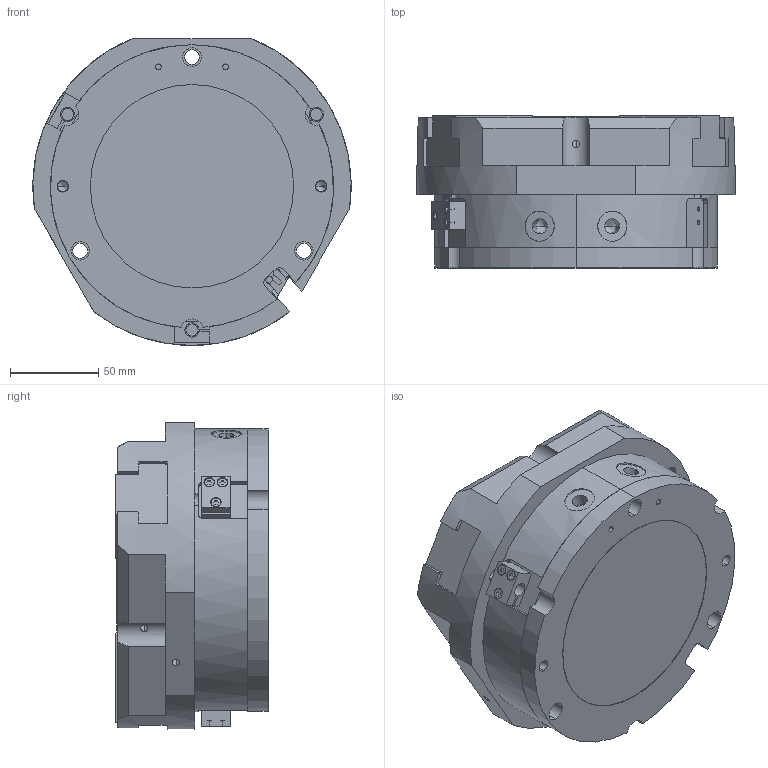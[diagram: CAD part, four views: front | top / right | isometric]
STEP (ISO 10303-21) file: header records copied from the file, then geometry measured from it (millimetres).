
FILE_DESCRIPTION (( 'STEP AP214' ), '1' );
FILE_NAME ('FCT 160A-1.STEP', '2021-09-17T06:47:06', ( 'DEEP' ), ( 'Microsoft' ), 'SwSTEP 2.0', 'SolidWorks 2016', '' );
FILE_SCHEMA (( 'AUTOMOTIVE_DESIGN' ));
Length unit declared in the file: millimetre
Products named in the file (16): FCT 160A-1-004; FCT 160A-1-005; FCT 160A-1-003; FCT 160A-1-002; FCT 160A-1-006; FCT 160A-1-001; FCT 160A-1
Assembly tree (9 placements, depth 2):
  FCT 160A-1-005
  FCT 160A-1-003
  FCT 160A-1-003
  FCT 160A-1-003
  FCT 160A-1-002
Bounding box: 179.96 x 86 x 173.5 mm (x, y, z)
Volume: 1300179.6 mm3; surface area: 233177.7 mm2
Topology: 9 solids, 9 shells, 531 faces, 1351 edges, 858 vertices
Faces by surface type: plane 259, cylinder 200, cone 72
Entity records: 13595 total; most frequent: CARTESIAN_POINT 2826, DIRECTION 2211, ORIENTED_EDGE 2038, EDGE_CURVE 1019, AXIS2_PLACEMENT_3D 815, VERTEX_POINT 666, VECTOR 581, LINE 581
